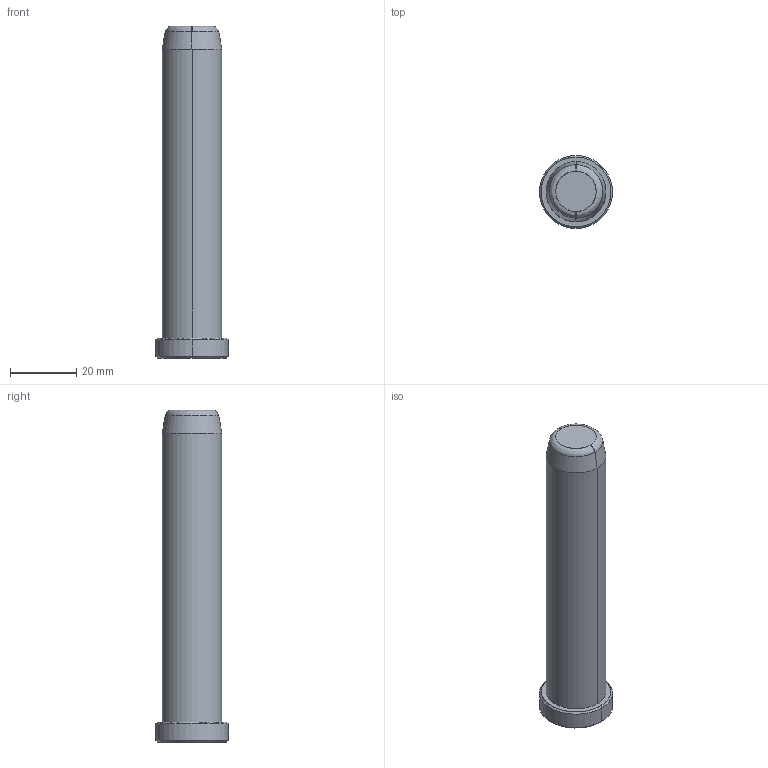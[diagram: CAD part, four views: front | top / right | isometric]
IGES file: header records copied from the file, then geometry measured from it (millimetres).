
Start section: START RECORD GO HERE.
Global section: file name: B81818100.igs; native system: DASSAULT SYSTEMES CATIA V5 R20 - www.3ds.com; preprocessor: CATIA Version 5 Release 20 ; author: Utente; organization: NB04-ASUS; date: 20200419.172349; units: millimetre
Bounding box: 22 x 22 x 100 mm (x, y, z)
Surface area: 6334 mm2 (no closed solid volume)
Topology: 0 solids, 0 shells, 17 faces, 68 edges, 68 vertices
Faces by surface type: revolution 14, plane 3
